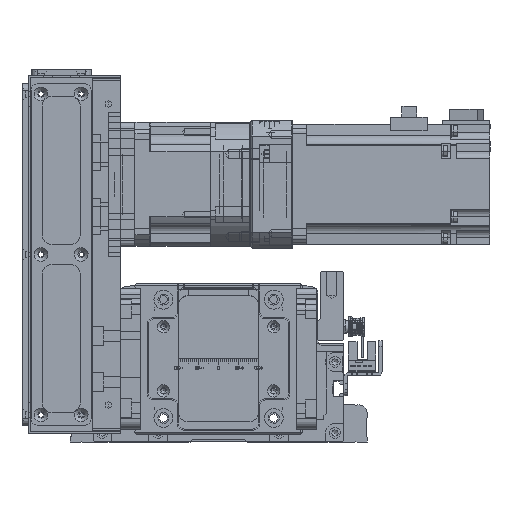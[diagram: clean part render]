
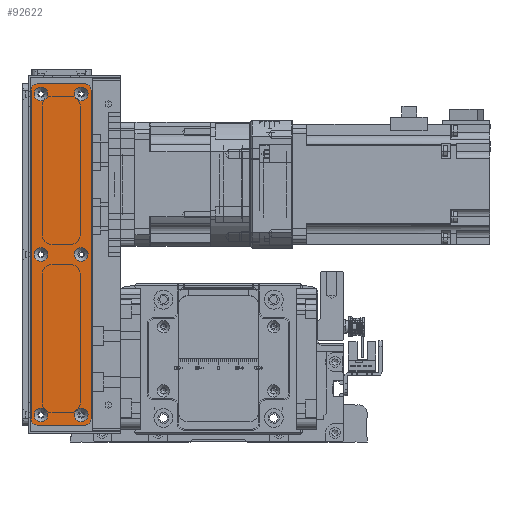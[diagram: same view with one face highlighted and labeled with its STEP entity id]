
A CAD part, front view. The second image highlights one B-rep face of the part: STEP entity #92622.
In plain terms, the highlighted planar face has unit normal (0, -1, 0).
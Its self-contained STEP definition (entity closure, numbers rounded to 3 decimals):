
#4237=FACE_BOUND('',#14517,.T.);
#4238=FACE_BOUND('',#14518,.T.);
#4239=FACE_BOUND('',#14519,.T.);
#4240=FACE_BOUND('',#14520,.T.);
#4241=FACE_BOUND('',#14521,.T.);
#4242=FACE_BOUND('',#14522,.T.);
#8992=FACE_OUTER_BOUND('',#14516,.T.);
#14516=EDGE_LOOP('',(#84492,#84493,#84494,#84495,#84496,#84497,#84498,#84499));
#14517=EDGE_LOOP('',(#84500));
#14518=EDGE_LOOP('',(#84501));
#14519=EDGE_LOOP('',(#84502));
#14520=EDGE_LOOP('',(#84503));
#14521=EDGE_LOOP('',(#84504));
#14522=EDGE_LOOP('',(#84505));
#17142=CIRCLE('',#101050,3.45);
#17145=CIRCLE('',#101055,3.45);
#17148=CIRCLE('',#101060,3.45);
#17151=CIRCLE('',#101065,3.45);
#17154=CIRCLE('',#101070,3.45);
#17157=CIRCLE('',#101075,3.45);
#17160=CIRCLE('',#101080,3.);
#17162=CIRCLE('',#101083,3.);
#17163=CIRCLE('',#101084,3.);
#17164=CIRCLE('',#101085,3.);
#26835=LINE('',#157653,#36520);
#26836=LINE('',#157657,#36521);
#26837=LINE('',#157661,#36522);
#26838=LINE('',#157664,#36523);
#36520=VECTOR('',#126246,10.);
#36521=VECTOR('',#126249,10.);
#36522=VECTOR('',#126252,10.);
#36523=VECTOR('',#126255,10.);
#45217=VERTEX_POINT('',#157583);
#45220=VERTEX_POINT('',#157593);
#45223=VERTEX_POINT('',#157603);
#45226=VERTEX_POINT('',#157613);
#45229=VERTEX_POINT('',#157623);
#45232=VERTEX_POINT('',#157633);
#45235=VERTEX_POINT('',#157643);
#45236=VERTEX_POINT('',#157644);
#45239=VERTEX_POINT('',#157652);
#45240=VERTEX_POINT('',#157654);
#45241=VERTEX_POINT('',#157656);
#45242=VERTEX_POINT('',#157658);
#45243=VERTEX_POINT('',#157660);
#45244=VERTEX_POINT('',#157662);
#58300=EDGE_CURVE('',#45217,#45217,#17142,.T.);
#58305=EDGE_CURVE('',#45220,#45220,#17145,.T.);
#58310=EDGE_CURVE('',#45223,#45223,#17148,.T.);
#58315=EDGE_CURVE('',#45226,#45226,#17151,.T.);
#58320=EDGE_CURVE('',#45229,#45229,#17154,.T.);
#58325=EDGE_CURVE('',#45232,#45232,#17157,.T.);
#58330=EDGE_CURVE('',#45235,#45236,#17160,.T.);
#58334=EDGE_CURVE('',#45235,#45239,#26835,.T.);
#58335=EDGE_CURVE('',#45240,#45239,#17162,.T.);
#58336=EDGE_CURVE('',#45240,#45241,#26836,.T.);
#58337=EDGE_CURVE('',#45242,#45241,#17163,.T.);
#58338=EDGE_CURVE('',#45242,#45243,#26837,.T.);
#58339=EDGE_CURVE('',#45244,#45243,#17164,.T.);
#58340=EDGE_CURVE('',#45244,#45236,#26838,.T.);
#84492=ORIENTED_EDGE('',*,*,#58330,.F.);
#84493=ORIENTED_EDGE('',*,*,#58334,.T.);
#84494=ORIENTED_EDGE('',*,*,#58335,.F.);
#84495=ORIENTED_EDGE('',*,*,#58336,.T.);
#84496=ORIENTED_EDGE('',*,*,#58337,.F.);
#84497=ORIENTED_EDGE('',*,*,#58338,.T.);
#84498=ORIENTED_EDGE('',*,*,#58339,.F.);
#84499=ORIENTED_EDGE('',*,*,#58340,.T.);
#84500=ORIENTED_EDGE('',*,*,#58300,.T.);
#84501=ORIENTED_EDGE('',*,*,#58305,.T.);
#84502=ORIENTED_EDGE('',*,*,#58310,.T.);
#84503=ORIENTED_EDGE('',*,*,#58315,.T.);
#84504=ORIENTED_EDGE('',*,*,#58320,.T.);
#84505=ORIENTED_EDGE('',*,*,#58325,.T.);
#87875=PLANE('',#101082);
#92622=ADVANCED_FACE('',(#8992,#4237,#4238,#4239,#4240,#4241,#4242),#87875,
 .T.);
#101050=AXIS2_PLACEMENT_3D('',#157584,#126166,#126167);
#101055=AXIS2_PLACEMENT_3D('',#157594,#126178,#126179);
#101060=AXIS2_PLACEMENT_3D('',#157604,#126190,#126191);
#101065=AXIS2_PLACEMENT_3D('',#157614,#126202,#126203);
#101070=AXIS2_PLACEMENT_3D('',#157624,#126214,#126215);
#101075=AXIS2_PLACEMENT_3D('',#157634,#126226,#126227);
#101080=AXIS2_PLACEMENT_3D('',#157645,#126238,#126239);
#101082=AXIS2_PLACEMENT_3D('',#157651,#126244,#126245);
#101083=AXIS2_PLACEMENT_3D('',#157655,#126247,#126248);
#101084=AXIS2_PLACEMENT_3D('',#157659,#126250,#126251);
#101085=AXIS2_PLACEMENT_3D('',#157663,#126253,#126254);
#126166=DIRECTION('center_axis',(0.,1.,0.));
#126167=DIRECTION('ref_axis',(1.,0.,0.));
#126178=DIRECTION('center_axis',(0.,1.,0.));
#126179=DIRECTION('ref_axis',(1.,0.,0.));
#126190=DIRECTION('center_axis',(0.,1.,0.));
#126191=DIRECTION('ref_axis',(1.,0.,0.));
#126202=DIRECTION('center_axis',(0.,1.,0.));
#126203=DIRECTION('ref_axis',(1.,0.,0.));
#126214=DIRECTION('center_axis',(0.,1.,0.));
#126215=DIRECTION('ref_axis',(1.,0.,0.));
#126226=DIRECTION('center_axis',(0.,1.,0.));
#126227=DIRECTION('ref_axis',(1.,0.,0.));
#126238=DIRECTION('center_axis',(0.,1.,0.));
#126239=DIRECTION('ref_axis',(-0.707,0.,0.707));
#126244=DIRECTION('center_axis',(0.,-1.,0.));
#126245=DIRECTION('ref_axis',(0.,0.,-1.));
#126246=DIRECTION('',(0.,0.,-1.));
#126247=DIRECTION('center_axis',(0.,1.,0.));
#126248=DIRECTION('ref_axis',(-0.707,0.,-0.707));
#126249=DIRECTION('',(1.,0.,0.));
#126250=DIRECTION('center_axis',(0.,1.,0.));
#126251=DIRECTION('ref_axis',(0.707,0.,-0.707));
#126252=DIRECTION('',(0.,0.,1.));
#126253=DIRECTION('center_axis',(0.,1.,0.));
#126254=DIRECTION('ref_axis',(0.707,0.,0.707));
#126255=DIRECTION('',(-1.,0.,0.));
#157583=CARTESIAN_POINT('',(76.55,-1.5,10.));
#157584=CARTESIAN_POINT('Origin',(80.,-1.5,10.));
#157593=CARTESIAN_POINT('',(-3.45,-1.5,-10.));
#157594=CARTESIAN_POINT('Origin',(0.,-1.5,-10.));
#157603=CARTESIAN_POINT('',(-83.45,-1.5,10.));
#157604=CARTESIAN_POINT('Origin',(-80.,-1.5,10.));
#157613=CARTESIAN_POINT('',(-83.45,-1.5,-10.));
#157614=CARTESIAN_POINT('Origin',(-80.,-1.5,-10.));
#157623=CARTESIAN_POINT('',(-3.45,-1.5,10.));
#157624=CARTESIAN_POINT('Origin',(0.,-1.5,10.));
#157633=CARTESIAN_POINT('',(76.55,-1.5,-10.));
#157634=CARTESIAN_POINT('Origin',(80.,-1.5,-10.));
#157643=CARTESIAN_POINT('',(-85.,-1.5,12.));
#157644=CARTESIAN_POINT('',(-82.,-1.5,15.));
#157645=CARTESIAN_POINT('Origin',(-82.,-1.5,12.));
#157651=CARTESIAN_POINT('Origin',(0.,-1.5,0.));
#157652=CARTESIAN_POINT('',(-85.,-1.5,-12.));
#157653=CARTESIAN_POINT('',(-85.,-1.5,15.));
#157654=CARTESIAN_POINT('',(-82.,-1.5,-15.));
#157655=CARTESIAN_POINT('Origin',(-82.,-1.5,-12.));
#157656=CARTESIAN_POINT('',(82.,-1.5,-15.));
#157657=CARTESIAN_POINT('',(-85.,-1.5,-15.));
#157658=CARTESIAN_POINT('',(85.,-1.5,-12.));
#157659=CARTESIAN_POINT('Origin',(82.,-1.5,-12.));
#157660=CARTESIAN_POINT('',(85.,-1.5,12.));
#157661=CARTESIAN_POINT('',(85.,-1.5,-15.));
#157662=CARTESIAN_POINT('',(82.,-1.5,15.));
#157663=CARTESIAN_POINT('Origin',(82.,-1.5,12.));
#157664=CARTESIAN_POINT('',(85.,-1.5,15.));
